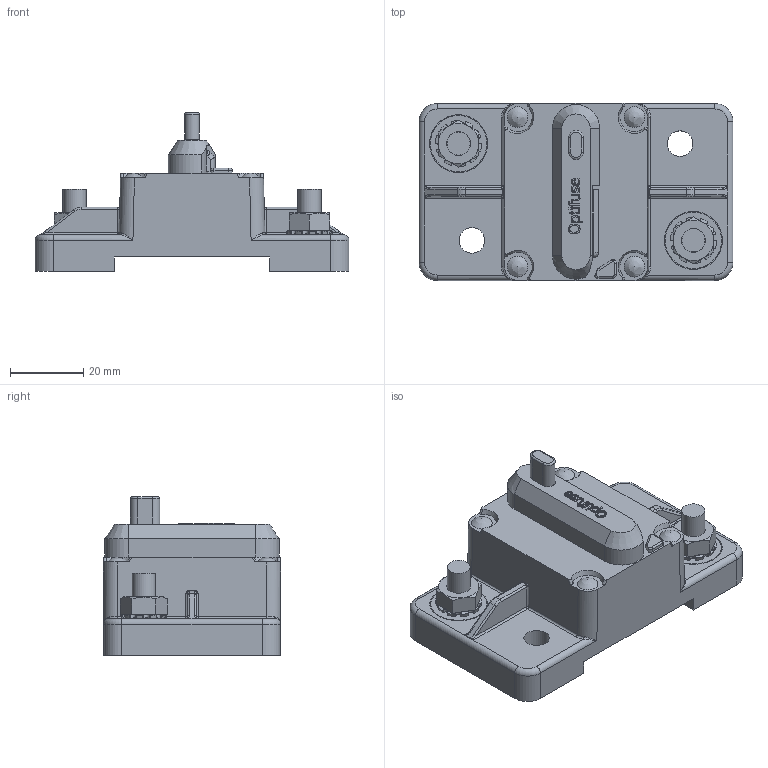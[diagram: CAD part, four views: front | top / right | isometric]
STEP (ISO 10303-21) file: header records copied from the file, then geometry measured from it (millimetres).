
FILE_DESCRIPTION(/* description */ (''),/* implementation_level */ '2;1');
FILE_NAME(/* name */ 'C:\Users\Hani\Desktop\work\253\253 Circuit Breaker.stp',/* time_stamp */ '2021-07-06T11:45:05-07:00',/* author */ ('Hani'),/* organization */ (''),/* preprocessor_version */ 'ST-DEVELOPER v17',/* originating_system */ 'Autodesk Inventor 2019',/* authorisation */ '');
FILE_SCHEMA (('AUTOMOTIVE_DESIGN { 1 0 10303 214 3 1 1 }'));
Length unit declared in the file: inch
Products named in the file (5): 253 Circuit Breaker; Circuit_Breaker series 153; washer; bolt; .250-28 HEX NUT WITH TOOTH WASHER
Assembly tree (9 placements, depth 2):
  253 Circuit Breaker
    Circuit_Breaker series 153
    washer  x2
    bolt  x4
    .250-28 HEX NUT WITH TOOTH WASHER  x2
Bounding box: 86 x 48.5 x 43.41 mm (x, y, z)
Volume: 68521.4 mm3; surface area: 21278.6 mm2
Topology: 11 solids, 11 shells, 638 faces, 1649 edges, 1048 vertices
Faces by surface type: plane 215, cylinder 182, bspline 158, cone 62, torus 16, sphere 5
Full cylindrical faces by diameter (mm): 3.429 x4, 3.5 x4, 5.368 x8, 5.5 x1, 6.35 x20, 7 x4, 7.7 x1, 8.757 x2, 15.494 x2, 15.875 x2
Entity records: 19196 total; most frequent: CARTESIAN_POINT 7824, ORIENTED_EDGE 2522, DIRECTION 1979, EDGE_CURVE 1261, VERTEX_POINT 805, AXIS2_PLACEMENT_3D 697, LINE 585, VECTOR 585
